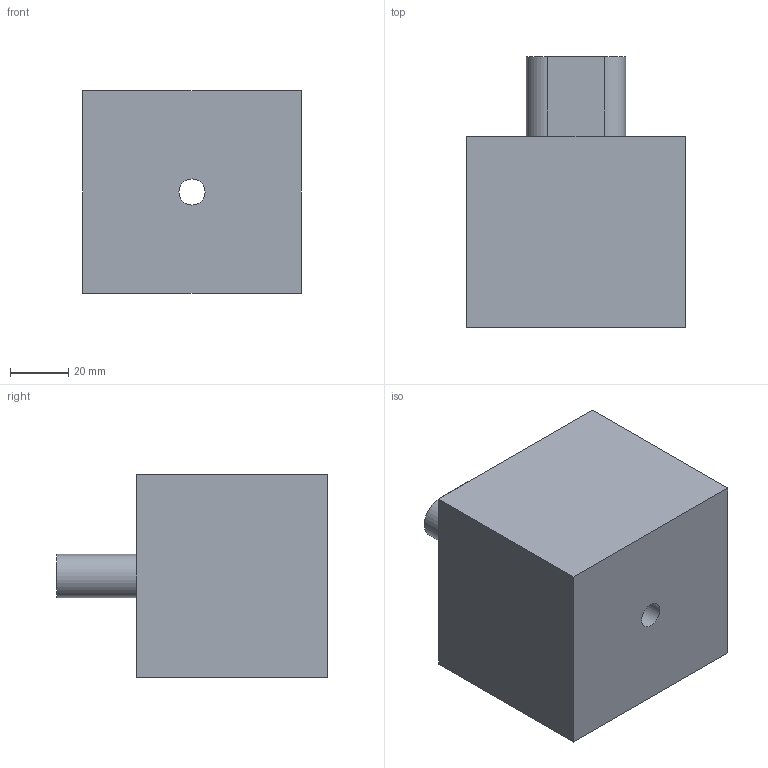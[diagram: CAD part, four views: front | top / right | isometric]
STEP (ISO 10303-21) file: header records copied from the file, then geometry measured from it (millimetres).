
FILE_DESCRIPTION(('Mechanical CAD reference from nasji.com'),'2;1');
FILE_NAME('NASJI.step','',(''),(''),'','NASJI distribution','');
FILE_SCHEMA(('AUTOMOTIVE_DESIGN { 1 0 10303 214 1 1 1 1 }'));
Length unit declared in the file: millimetre
Products named in the file (1): Open CASCADE STEP translator 7.8 148
Bounding box: 75 x 93.1 x 69.5 mm (x, y, z)
Volume: 349195.5 mm3; surface area: 34257.6 mm2
Topology: 1 solids, 1 shells, 12 faces, 27 edges, 18 vertices
Faces by surface type: plane 9, cylinder 3
Full cylindrical faces by diameter (mm): 9 x1
Entity records: 711 total; most frequent: CARTESIAN_POINT 130, DIRECTION 110, LINE 69, VECTOR 69, ORIENTED_EDGE 54, PCURVE 54, DEFINITIONAL_REPRESENTATION 54, EDGE_CURVE 27
